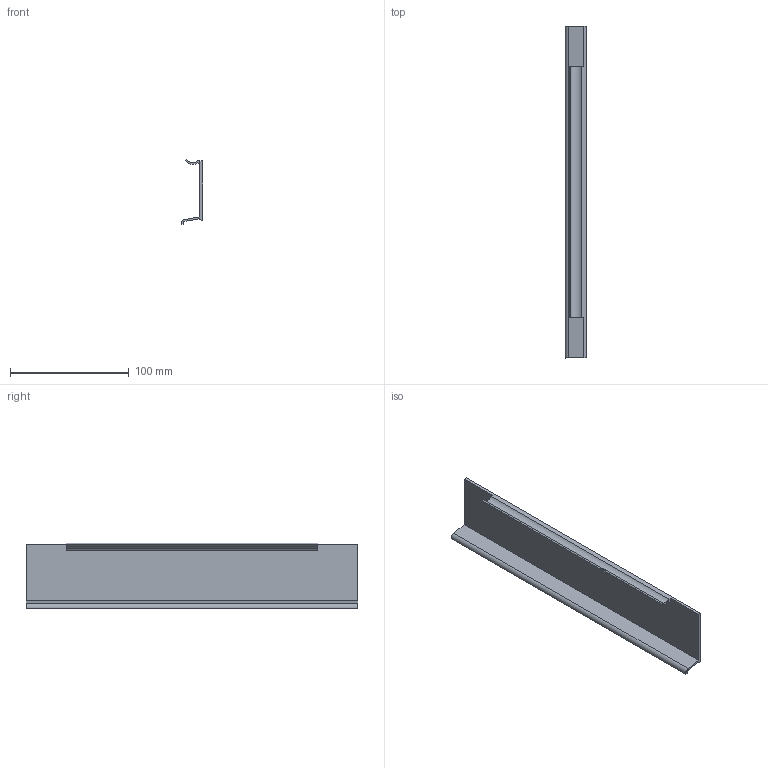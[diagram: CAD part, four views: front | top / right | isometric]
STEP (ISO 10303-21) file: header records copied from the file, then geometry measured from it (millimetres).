
FILE_DESCRIPTION (( 'STEP AP214' ), '1' );
FILE_NAME ('Sidecover_NL-300.step', '2010-09-21T06:52:12', ( 'grass' ), ( '' ), 'SwSTEP 2.0', 'SolidWorks 2010', '' );
FILE_SCHEMA (( 'AUTOMOTIVE_DESIGN' ));
Length unit declared in the file: millimetre
Products named in the file (1): Sidecover_NL-300
Bounding box: 18.14 x 279.5 x 54.9 mm (x, y, z)
Volume: 45305.5 mm3; surface area: 44313.6 mm2
Topology: 1 solids, 1 shells, 19 faces, 51 edges, 34 vertices
Faces by surface type: plane 14, cylinder 5
Entity records: 629 total; most frequent: CARTESIAN_POINT 105, ORIENTED_EDGE 102, DIRECTION 101, EDGE_CURVE 51, LINE 41, VECTOR 41, VERTEX_POINT 34, AXIS2_PLACEMENT_3D 30
